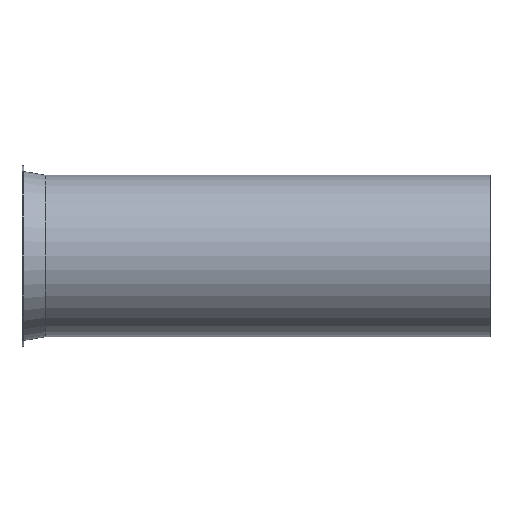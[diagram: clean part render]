
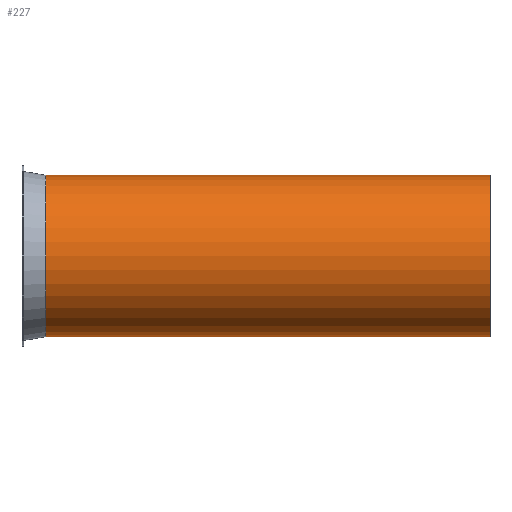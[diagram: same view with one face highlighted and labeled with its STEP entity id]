
A CAD part, front view. The second image highlights one B-rep face of the part: STEP entity #227.
In plain terms, the highlighted cylindrical face has radius 85 mm (diameter 170 mm), a full revolution.
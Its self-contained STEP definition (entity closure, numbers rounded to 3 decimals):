
#132=CARTESIAN_POINT('',(-2.081,46.834,0.0));
#133=VERTEX_POINT('',#132);
#134=CARTESIAN_POINT('',(-2.081,131.834,0.0));
#135=DIRECTION('',(-1.0,0.0,0.0));
#136=DIRECTION('',(0.0,-1.0,0.0));
#137=AXIS2_PLACEMENT_3D('',#134,#135,#136);
#138=CIRCLE('',#137,85.);
#139=EDGE_CURVE('',#133,#133,#138,.T.);
#201=CARTESIAN_POINT('',(465.919,46.834,0.0));
#202=VERTEX_POINT('',#201);
#203=CARTESIAN_POINT('',(465.919,131.834,0.0));
#204=DIRECTION('',(-1.0,0.0,0.0));
#205=DIRECTION('',(0.0,-1.0,0.0));
#206=AXIS2_PLACEMENT_3D('',#203,#204,#205);
#207=CIRCLE('',#206,85.);
#208=EDGE_CURVE('',#202,#202,#207,.T.);
#216=CARTESIAN_POINT('',(231.919,131.834,0.0));
#217=DIRECTION('',(-1.0,0.,0.0));
#218=DIRECTION('',(0.0,-1.0,0.0));
#219=AXIS2_PLACEMENT_3D('',#216,#217,#218);
#220=CYLINDRICAL_SURFACE('',#219,85.);
#221=ORIENTED_EDGE('',*,*,#139,.F.);
#222=EDGE_LOOP('',(#221));
#223=FACE_OUTER_BOUND('',#222,.T.);
#224=ORIENTED_EDGE('',*,*,#208,.T.);
#225=EDGE_LOOP('',(#224));
#226=FACE_BOUND('',#225,.T.);
#227=ADVANCED_FACE('',(#223,#226),#220,.T.);
